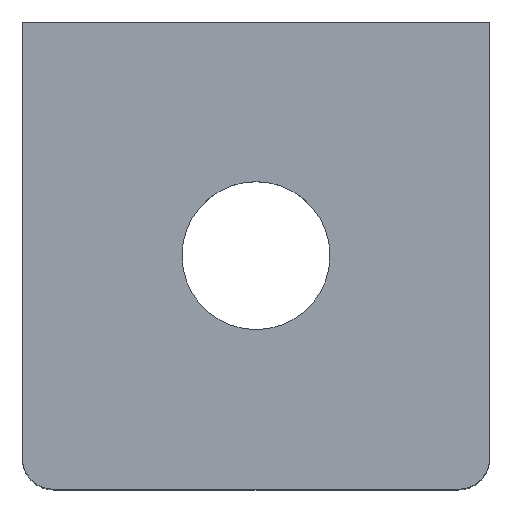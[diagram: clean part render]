
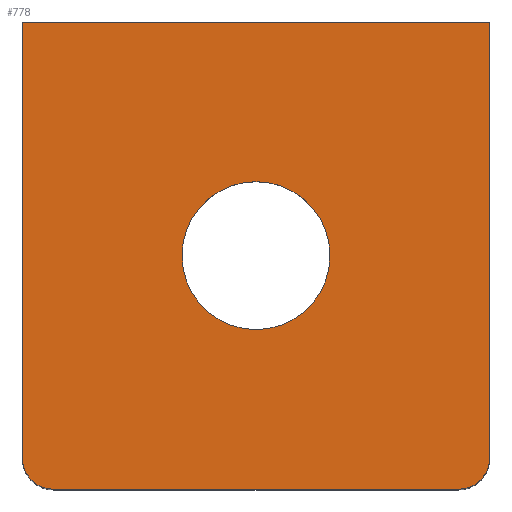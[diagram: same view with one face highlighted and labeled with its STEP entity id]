
A CAD part, top view. The second image highlights one B-rep face of the part: STEP entity #778.
In plain terms, the highlighted planar face has unit normal (0, 0, 1).
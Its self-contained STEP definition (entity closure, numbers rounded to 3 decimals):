
#33 = VECTOR ( 'NONE', #92, 1000. ) ;
#43 = ORIENTED_EDGE ( 'NONE', *, *, #733, .T. ) ;
#46 = EDGE_CURVE ( 'NONE', #846, #555, #233, .T. ) ;
#59 = DIRECTION ( 'NONE',  ( -1., 0., 0. ) ) ;
#75 = ORIENTED_EDGE ( 'NONE', *, *, #689, .T. ) ;
#92 = DIRECTION ( 'NONE',  ( 0., -1., 0. ) ) ;
#115 = CARTESIAN_POINT ( 'NONE',  ( 5.286, -2.009, 30. ) ) ;
#119 = DIRECTION ( 'NONE',  ( 1., 0., 0. ) ) ;
#132 = CARTESIAN_POINT ( 'NONE',  ( -12.464, -15.009, 30. ) ) ;
#141 = DIRECTION ( 'NONE',  ( 0., 0., -1. ) ) ;
#145 = EDGE_CURVE ( 'NONE', #579, #480, #334, .T. ) ;
#146 = CARTESIAN_POINT ( 'NONE',  ( 0., 0., 30. ) ) ;
#154 = LINE ( 'NONE', #942, #721 ) ;
#174 = ORIENTED_EDGE ( 'NONE', *, *, #672, .T. ) ;
#175 = CIRCLE ( 'NONE', #667, 2. ) ;
#210 = DIRECTION ( 'NONE',  ( -1., 0., 0. ) ) ;
#215 = AXIS2_PLACEMENT_3D ( 'NONE', #954, #141, #884 ) ;
#217 = CARTESIAN_POINT ( 'NONE',  ( -14.464, 12.991, 30. ) ) ;
#233 = LINE ( 'NONE', #582, #33 ) ;
#241 = ORIENTED_EDGE ( 'NONE', *, *, #662, .T. ) ;
#243 = EDGE_LOOP ( 'NONE', ( #809, #75, #415, #43, #174, #241 ) ) ;
#262 = AXIS2_PLACEMENT_3D ( 'NONE', #146, #376, #963 ) ;
#265 = VERTEX_POINT ( 'NONE', #907 ) ;
#266 = AXIS2_PLACEMENT_3D ( 'NONE', #784, #790, #210 ) ;
#307 = CARTESIAN_POINT ( 'NONE',  ( 15.536, 12.991, 30. ) ) ;
#329 = CARTESIAN_POINT ( 'NONE',  ( -14.464, -15.009, 30. ) ) ;
#334 = CIRCLE ( 'NONE', #266, 4.75 ) ;
#370 = PLANE ( 'NONE',  #262 ) ;
#376 = DIRECTION ( 'NONE',  ( 0., 0., 1. ) ) ;
#390 = CARTESIAN_POINT ( 'NONE',  ( -4.214, -2.009, 30. ) ) ;
#409 = CARTESIAN_POINT ( 'NONE',  ( -14.464, -17.009, 30. ) ) ;
#415 = ORIENTED_EDGE ( 'NONE', *, *, #573, .T. ) ;
#420 = CIRCLE ( 'NONE', #743, 2. ) ;
#421 = CARTESIAN_POINT ( 'NONE',  ( 15.536, 12.991, 30. ) ) ;
#450 = ORIENTED_EDGE ( 'NONE', *, *, #826, .T. ) ;
#480 = VERTEX_POINT ( 'NONE', #390 ) ;
#481 = ORIENTED_EDGE ( 'NONE', *, *, #145, .T. ) ;
#489 = DIRECTION ( 'NONE',  ( 0., 0., 1. ) ) ;
#554 = DIRECTION ( 'NONE',  ( 0., 0., 1. ) ) ;
#555 = VERTEX_POINT ( 'NONE', #329 ) ;
#573 = EDGE_CURVE ( 'NONE', #932, #265, #654, .T. ) ;
#579 = VERTEX_POINT ( 'NONE', #115 ) ;
#582 = CARTESIAN_POINT ( 'NONE',  ( -14.464, 12.991, 30. ) ) ;
#606 = VECTOR ( 'NONE', #847, 1000. ) ;
#620 = VERTEX_POINT ( 'NONE', #840 ) ;
#627 = FACE_BOUND ( 'NONE', #937, .T. ) ;
#654 = LINE ( 'NONE', #409, #606 ) ;
#662 = EDGE_CURVE ( 'NONE', #951, #846, #154, .T. ) ;
#667 = AXIS2_PLACEMENT_3D ( 'NONE', #944, #489, #861 ) ;
#672 = EDGE_CURVE ( 'NONE', #620, #951, #673, .T. ) ;
#673 = LINE ( 'NONE', #421, #804 ) ;
#689 = EDGE_CURVE ( 'NONE', #555, #932, #420, .T. ) ;
#721 = VECTOR ( 'NONE', #59, 1000. ) ;
#733 = EDGE_CURVE ( 'NONE', #265, #620, #175, .T. ) ;
#743 = AXIS2_PLACEMENT_3D ( 'NONE', #132, #554, #119 ) ;
#778 = ADVANCED_FACE ( 'NONE', ( #627, #885 ), #370, .T. ) ;
#784 = CARTESIAN_POINT ( 'NONE',  ( 0.536, -2.009, 30. ) ) ;
#790 = DIRECTION ( 'NONE',  ( 0., 0., -1. ) ) ;
#804 = VECTOR ( 'NONE', #865, 1000. ) ;
#809 = ORIENTED_EDGE ( 'NONE', *, *, #46, .T. ) ;
#826 = EDGE_CURVE ( 'NONE', #480, #579, #854, .T. ) ;
#840 = CARTESIAN_POINT ( 'NONE',  ( 15.536, -15.009, 30. ) ) ;
#846 = VERTEX_POINT ( 'NONE', #217 ) ;
#847 = DIRECTION ( 'NONE',  ( 1., 0., 0. ) ) ;
#854 = CIRCLE ( 'NONE', #215, 4.75 ) ;
#861 = DIRECTION ( 'NONE',  ( 1., 0., 0. ) ) ;
#865 = DIRECTION ( 'NONE',  ( 0., 1., 0. ) ) ;
#884 = DIRECTION ( 'NONE',  ( -1., 0., 0. ) ) ;
#885 = FACE_OUTER_BOUND ( 'NONE', #243, .T. ) ;
#898 = CARTESIAN_POINT ( 'NONE',  ( -12.464, -17.009, 30. ) ) ;
#907 = CARTESIAN_POINT ( 'NONE',  ( 13.536, -17.009, 30. ) ) ;
#932 = VERTEX_POINT ( 'NONE', #898 ) ;
#937 = EDGE_LOOP ( 'NONE', ( #450, #481 ) ) ;
#942 = CARTESIAN_POINT ( 'NONE',  ( -14.464, 12.991, 30. ) ) ;
#944 = CARTESIAN_POINT ( 'NONE',  ( 13.536, -15.009, 30. ) ) ;
#951 = VERTEX_POINT ( 'NONE', #307 ) ;
#954 = CARTESIAN_POINT ( 'NONE',  ( 0.536, -2.009, 30. ) ) ;
#963 = DIRECTION ( 'NONE',  ( 1., 0., 0. ) ) ;
